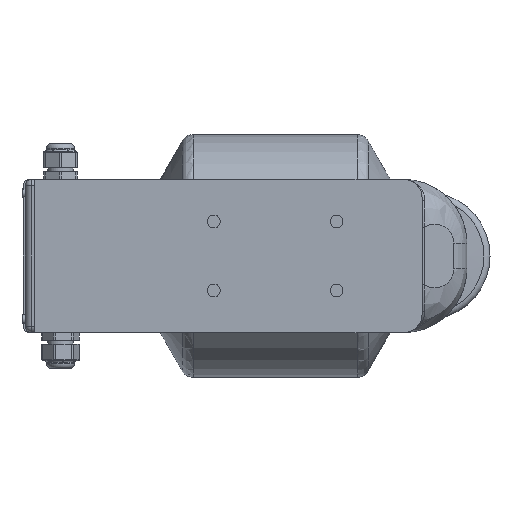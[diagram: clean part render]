
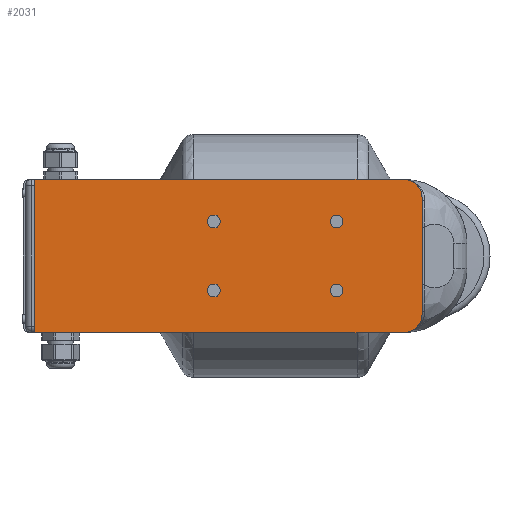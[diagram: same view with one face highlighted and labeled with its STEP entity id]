
A CAD part, front view. The second image highlights one B-rep face of the part: STEP entity #2031.
In plain terms, the highlighted planar face has unit normal (0, -1, 0).
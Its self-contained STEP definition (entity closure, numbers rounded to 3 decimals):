
#2031=ADVANCED_FACE('',(#6294,#6296,#6298,#6300,#6302),#6304,.F.);
#6294=FACE_BOUND('',#6295,.T.);
#6295=EDGE_LOOP('',(#10781,#10782,#10783,#10784,#10785,#10786));
#6296=FACE_BOUND('',#6297,.T.);
#6297=EDGE_LOOP('',(#10787));
#6298=FACE_BOUND('',#6299,.T.);
#6299=EDGE_LOOP('',(#10788));
#6300=FACE_BOUND('',#6301,.T.);
#6301=EDGE_LOOP('',(#10789));
#6302=FACE_BOUND('',#6303,.T.);
#6303=EDGE_LOOP('',(#10790));
#6304=PLANE('',#6305);
#6305=AXIS2_PLACEMENT_3D('',#6306,#6307,#6308);
#6306=CARTESIAN_POINT('',(0.,-190.,0.));
#6307=DIRECTION('',(-0.,1.,0.));
#6308=DIRECTION('',(1.,0.,0.));
#10781=ORIENTED_EDGE('',*,*,#12700,.F.);
#10782=ORIENTED_EDGE('',*,*,#12701,.F.);
#10783=ORIENTED_EDGE('',*,*,#12670,.T.);
#10784=ORIENTED_EDGE('',*,*,#12697,.T.);
#10785=ORIENTED_EDGE('',*,*,#12702,.T.);
#10786=ORIENTED_EDGE('',*,*,#12703,.F.);
#10787=ORIENTED_EDGE('',*,*,#12704,.F.);
#10788=ORIENTED_EDGE('',*,*,#12705,.F.);
#10789=ORIENTED_EDGE('',*,*,#12706,.T.);
#10790=ORIENTED_EDGE('',*,*,#12707,.T.);
#12670=EDGE_CURVE('',#13958,#13956,#13959,.T.);
#12697=EDGE_CURVE('',#13956,#14009,#14011,.T.);
#12700=EDGE_CURVE('',#14015,#14016,#14017,.T.);
#12701=EDGE_CURVE('',#13958,#14015,#14018,.T.);
#12702=EDGE_CURVE('',#14009,#14019,#14020,.T.);
#12703=EDGE_CURVE('',#14016,#14019,#14021,.T.);
#12704=EDGE_CURVE('',#14022,#14022,#14023,.F.);
#12705=EDGE_CURVE('',#14024,#14024,#14025,.F.);
#12706=EDGE_CURVE('',#14026,#14026,#14027,.F.);
#12707=EDGE_CURVE('',#14028,#14028,#14029,.F.);
#13956=VERTEX_POINT('',#16774);
#13958=VERTEX_POINT('',#16778);
#13959=LINE('',#16779,#16780);
#14009=VERTEX_POINT('',#17037);
#14011=LINE('',#17041,#17042);
#14015=VERTEX_POINT('',#17051);
#14016=VERTEX_POINT('',#17052);
#14017=CIRCLE('',#17053,15.);
#14018=LINE('',#17057,#17058);
#14019=VERTEX_POINT('',#17060);
#14020=CIRCLE('',#17061,15.);
#14021=LINE('',#17065,#17066);
#14022=VERTEX_POINT('',#17068);
#14023=CIRCLE('',#17069,5.);
#14024=VERTEX_POINT('',#17073);
#14025=CIRCLE('',#17074,5.);
#14026=VERTEX_POINT('',#17078);
#14027=CIRCLE('',#17079,5.);
#14028=VERTEX_POINT('',#17083);
#14029=CIRCLE('',#17084,5.);
#16774=CARTESIAN_POINT('',(-188.,-190.,-60.));
#16778=CARTESIAN_POINT('',(-188.,-190.,60.));
#16779=CARTESIAN_POINT('',(-188.,-190.,60.));
#16780=VECTOR('',#16781,1.);
#16781=DIRECTION('',(0.,0.,-1.));
#17037=CARTESIAN_POINT('',(100.,-190.,-60.));
#17041=CARTESIAN_POINT('',(-188.,-190.,-60.));
#17042=VECTOR('',#17043,1.);
#17043=DIRECTION('',(1.,0.,0.));
#17051=CARTESIAN_POINT('',(100.,-190.,60.));
#17052=CARTESIAN_POINT('',(115.,-190.,45.));
#17053=AXIS2_PLACEMENT_3D('',#17054,#17055,#17056);
#17054=CARTESIAN_POINT('',(100.,-190.,45.));
#17055=DIRECTION('',(-0.,1.,0.));
#17056=DIRECTION('',(0.,0.,1.));
#17057=CARTESIAN_POINT('',(-188.,-190.,60.));
#17058=VECTOR('',#17059,1.);
#17059=DIRECTION('',(1.,0.,0.));
#17060=CARTESIAN_POINT('',(115.,-190.,-45.));
#17061=AXIS2_PLACEMENT_3D('',#17062,#17063,#17064);
#17062=CARTESIAN_POINT('',(100.,-190.,-45.));
#17063=DIRECTION('',(0.,-1.,0.));
#17064=DIRECTION('',(0.,0.,-1.));
#17065=CARTESIAN_POINT('',(115.,-190.,45.));
#17066=VECTOR('',#17067,1.);
#17067=DIRECTION('',(0.,0.,-1.));
#17068=CARTESIAN_POINT('',(53.,-190.,-27.));
#17069=AXIS2_PLACEMENT_3D('',#17070,#17071,#17072);
#17070=CARTESIAN_POINT('',(48.,-190.,-27.));
#17071=DIRECTION('',(-0.,1.,0.));
#17072=DIRECTION('',(1.,0.,0.));
#17073=CARTESIAN_POINT('',(-43.,-190.,-27.));
#17074=AXIS2_PLACEMENT_3D('',#17075,#17076,#17077);
#17075=CARTESIAN_POINT('',(-48.,-190.,-27.));
#17076=DIRECTION('',(-0.,1.,0.));
#17077=DIRECTION('',(1.,0.,0.));
#17078=CARTESIAN_POINT('',(53.,-190.,27.));
#17079=AXIS2_PLACEMENT_3D('',#17080,#17081,#17082);
#17080=CARTESIAN_POINT('',(48.,-190.,27.));
#17081=DIRECTION('',(0.,-1.,-0.));
#17082=DIRECTION('',(1.,0.,0.));
#17083=CARTESIAN_POINT('',(-43.,-190.,27.));
#17084=AXIS2_PLACEMENT_3D('',#17085,#17086,#17087);
#17085=CARTESIAN_POINT('',(-48.,-190.,27.));
#17086=DIRECTION('',(0.,-1.,-0.));
#17087=DIRECTION('',(1.,0.,0.));
